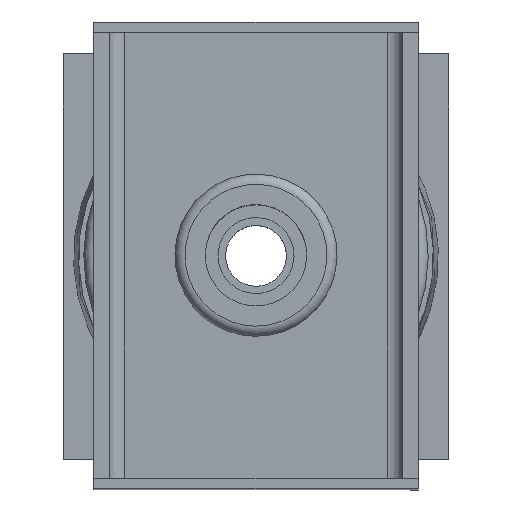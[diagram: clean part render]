
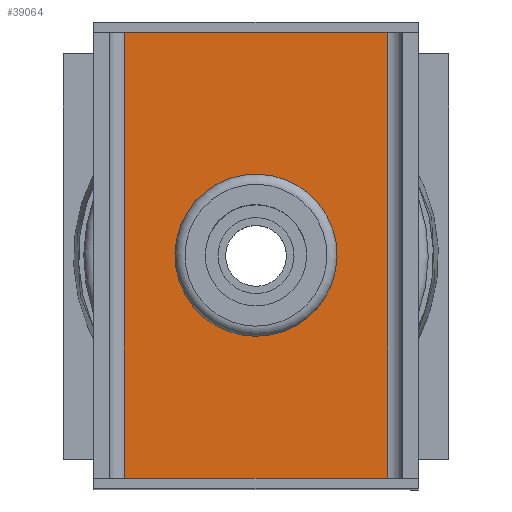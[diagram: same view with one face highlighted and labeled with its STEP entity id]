
A CAD part, top view. The second image highlights one B-rep face of the part: STEP entity #39064.
In plain terms, the highlighted planar face has unit normal (0, 0, 1).
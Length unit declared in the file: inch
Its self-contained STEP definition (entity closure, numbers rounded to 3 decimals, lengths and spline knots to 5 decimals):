
#38496=CARTESIAN_POINT('',(0.75,0.,0.1875));
#38497=VERTEX_POINT('',#38496);
#38498=CARTESIAN_POINT('',(0.0,0.0,0.1875));
#38499=DIRECTION('',(0.0,0.0,-1.0));
#38500=DIRECTION('',(-1.0,0.0,0.0));
#38501=AXIS2_PLACEMENT_3D('',#38498,#38499,#38500);
#38502=CIRCLE('',#38501,0.75);
#38503=EDGE_CURVE('',#38497,#38497,#38502,.T.);
#38641=CARTESIAN_POINT('',(1.625,-2.75,0.1875));
#38642=VERTEX_POINT('',#38641);
#38667=CARTESIAN_POINT('',(1.625,2.75,0.1875));
#38668=VERTEX_POINT('',#38667);
#38745=CARTESIAN_POINT('',(1.625,-2.75,0.1875));
#38746=DIRECTION('',(0.0,1.0,0.0));
#38747=VECTOR('',#38746,5.5);
#38748=LINE('',#38745,#38747);
#38749=EDGE_CURVE('',#38642,#38668,#38748,.T.);
#38877=CARTESIAN_POINT('',(-1.625,2.75,0.1875));
#38878=VERTEX_POINT('',#38877);
#38903=CARTESIAN_POINT('',(-1.625,-2.75,0.1875));
#38904=VERTEX_POINT('',#38903);
#38981=CARTESIAN_POINT('',(-1.625,2.75,0.1875));
#38982=DIRECTION('',(0.0,-1.0,0.0));
#38983=VECTOR('',#38982,5.5);
#38984=LINE('',#38981,#38983);
#38985=EDGE_CURVE('',#38878,#38904,#38984,.T.);
#39004=CARTESIAN_POINT('',(1.625,-2.75,0.1875));
#39005=DIRECTION('',(-1.0,0.0,0.0));
#39006=VECTOR('',#39005,3.25);
#39007=LINE('',#39004,#39006);
#39008=EDGE_CURVE('',#38642,#38904,#39007,.T.);
#39039=CARTESIAN_POINT('',(-1.625,2.75,0.1875));
#39040=DIRECTION('',(1.0,0.0,0.0));
#39041=VECTOR('',#39040,3.25);
#39042=LINE('',#39039,#39041);
#39043=EDGE_CURVE('',#38878,#38668,#39042,.T.);
#39050=CARTESIAN_POINT('',(0.,0.,0.1875));
#39051=DIRECTION('',(0.0,0.0,1.0));
#39052=DIRECTION('',(1.0,0.0,0.0));
#39053=AXIS2_PLACEMENT_3D('',#39050,#39051,#39052);
#39054=PLANE('',#39053);
#39055=ORIENTED_EDGE('',*,*,#38985,.T.);
#39056=ORIENTED_EDGE('',*,*,#39008,.F.);
#39057=ORIENTED_EDGE('',*,*,#38749,.T.);
#39058=ORIENTED_EDGE('',*,*,#39043,.F.);
#39059=EDGE_LOOP('',(#39055,#39056,#39057,#39058));
#39060=FACE_OUTER_BOUND('',#39059,.T.);
#39061=ORIENTED_EDGE('',*,*,#38503,.T.);
#39062=EDGE_LOOP('',(#39061));
#39063=FACE_BOUND('',#39062,.T.);
#39064=ADVANCED_FACE('',(#39060,#39063),#39054,.T.);
